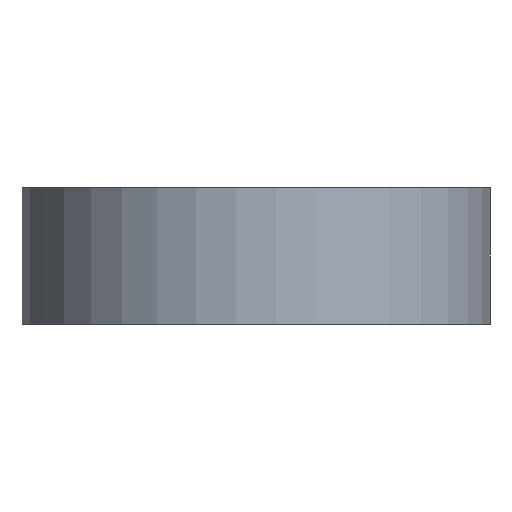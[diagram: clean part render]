
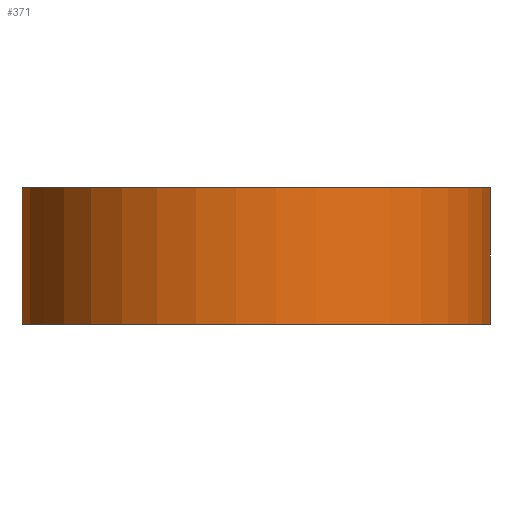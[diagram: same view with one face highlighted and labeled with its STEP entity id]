
A CAD part, front view. The second image highlights one B-rep face of the part: STEP entity #371.
In plain terms, the highlighted cylindrical face has radius 3.45 mm (diameter 6.9 mm), a partial arc.
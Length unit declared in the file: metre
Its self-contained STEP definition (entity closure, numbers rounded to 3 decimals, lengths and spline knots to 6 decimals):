
#36=CIRCLE('',#419,0.00345);
#37=CIRCLE('',#420,0.00345);
#42=ORIENTED_EDGE('',*,*,#144,.F.);
#43=ORIENTED_EDGE('',*,*,#145,.T.);
#44=ORIENTED_EDGE('',*,*,#146,.T.);
#45=ORIENTED_EDGE('',*,*,#147,.F.);
#144=EDGE_CURVE('',#195,#196,#229,.T.);
#145=EDGE_CURVE('',#195,#197,#36,.T.);
#146=EDGE_CURVE('',#197,#198,#230,.T.);
#147=EDGE_CURVE('',#196,#198,#37,.T.);
#195=VERTEX_POINT('',#553);
#196=VERTEX_POINT('',#554);
#197=VERTEX_POINT('',#556);
#198=VERTEX_POINT('',#558);
#229=LINE('',#552,#272);
#230=LINE('',#557,#273);
#272=VECTOR('',#451,1.);
#273=VECTOR('',#454,1.);
#315=EDGE_LOOP('',(#42,#43,#44,#45));
#342=FACE_BOUND('',#315,.T.);
#369=CYLINDRICAL_SURFACE('',#418,0.00345);
#371=ADVANCED_FACE('',(#342),#369,.T.);
#418=AXIS2_PLACEMENT_3D('',#551,#449,#450);
#419=AXIS2_PLACEMENT_3D('',#555,#452,#453);
#420=AXIS2_PLACEMENT_3D('',#559,#455,#456);
#449=DIRECTION('',(0.,0.,-1.));
#450=DIRECTION('',(-1.,0.,0.));
#451=DIRECTION('',(0.,0.,1.));
#452=DIRECTION('',(0.,0.,1.));
#453=DIRECTION('',(1.,0.,0.));
#454=DIRECTION('',(0.,0.,1.));
#455=DIRECTION('',(0.,0.,1.));
#456=DIRECTION('',(1.,0.,0.));
#551=CARTESIAN_POINT('',(0.,0.,0.028));
#552=CARTESIAN_POINT('',(-0.0015,0.003107,0.027));
#553=CARTESIAN_POINT('',(-0.0015,0.003107,0.026));
#554=CARTESIAN_POINT('',(-0.0015,0.003107,0.028));
#555=CARTESIAN_POINT('',(0.,0.,0.026));
#556=CARTESIAN_POINT('',(0.0015,0.003107,0.026));
#557=CARTESIAN_POINT('',(0.0015,0.003107,0.027));
#558=CARTESIAN_POINT('',(0.0015,0.003107,0.028));
#559=CARTESIAN_POINT('',(0.,0.,0.028));
